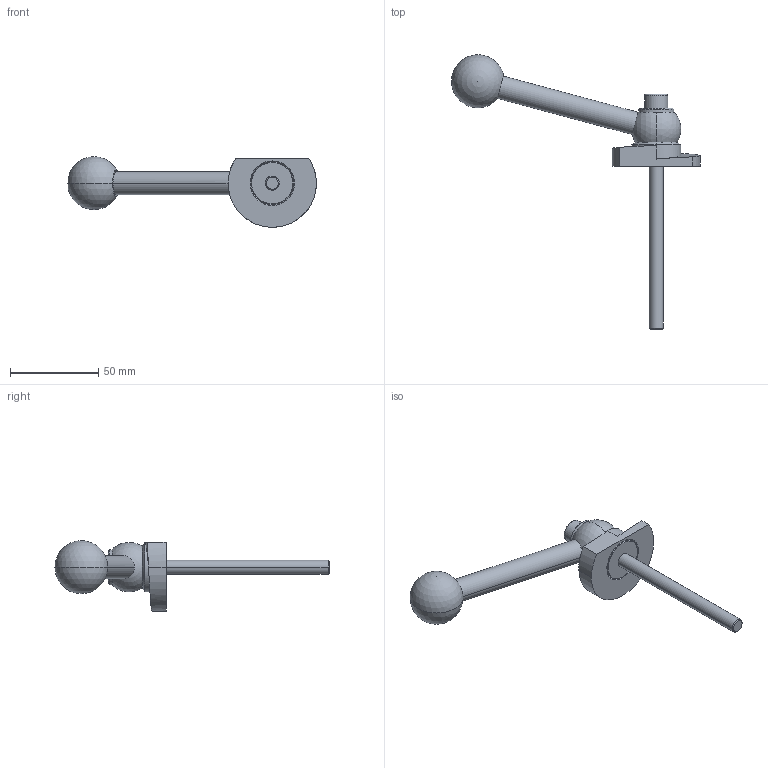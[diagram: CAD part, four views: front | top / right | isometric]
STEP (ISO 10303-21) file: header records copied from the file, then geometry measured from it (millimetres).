
FILE_DESCRIPTION (( 'STEP AP214' ), '1' );
FILE_NAME ('918.1-50-KVS-R-92.step', '2024-05-15T13:02:44', ( '' ), ( '' ), 'SwSTEP 2.0', 'SolidWorks 2022', '' );
FILE_SCHEMA (( 'AUTOMOTIVE_DESIGN' ));
Length unit declared in the file: millimetre
Products named in the file (1): 918.1-50-KVS-R-92
Bounding box: 140.94 x 155.31 x 40 mm (x, y, z)
Volume: 56071.4 mm3; surface area: 17801.6 mm2
Topology: 1 solids, 1 shells, 62 faces, 141 edges, 89 vertices
Faces by surface type: plane 20, cylinder 19, cone 14, sphere 4, bspline 3, torus 2
Entity records: 2011 total; most frequent: CARTESIAN_POINT 618, DIRECTION 305, ORIENTED_EDGE 262, EDGE_CURVE 131, AXIS2_PLACEMENT_3D 125, VERTEX_POINT 83, EDGE_LOOP 74, CIRCLE 65
